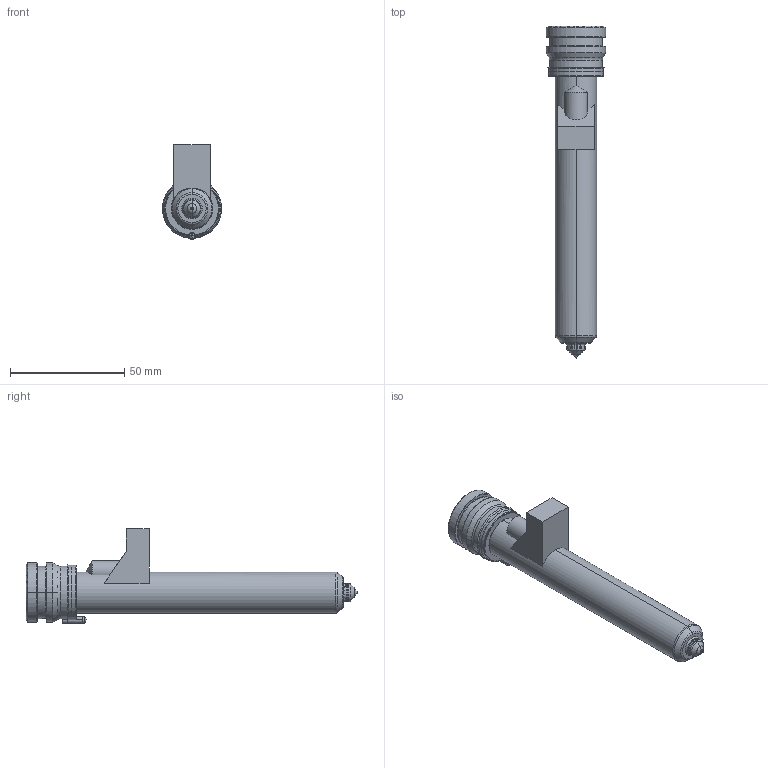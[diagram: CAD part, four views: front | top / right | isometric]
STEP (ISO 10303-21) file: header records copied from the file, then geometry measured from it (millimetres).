
FILE_DESCRIPTION((''),'2;1');
FILE_NAME('MPN-08-24-VX8-126-M','2026-02-05T13:31:19',('UPTIO'),('Thermoplay S.p.A.'),'CREO PARAMETRIC BY PTC INC, 2023494','CREO PARAMETRIC BY PTC INC, 2023494','');
FILE_SCHEMA(('CONFIG_CONTROL_DESIGN','SHAPE_APPEARANCE_LAYERS_GROUPS'));
Length unit declared in the file: millimetre
Products named in the file (1): MPN-08-24-VX8-126-M
Bounding box: 26 x 145.5 x 41.5 mm (x, y, z)
Volume: 27894.5 mm3; surface area: 36998.6 mm2
Topology: 2 solids, 3 shells, 529 faces, 1372 edges, 842 vertices
Faces by surface type: cylinder 174, plane 143, bspline 77, torus 60, cone 60, sphere 9, extrusion 6
Entity records: 27377 total; most frequent: CARTESIAN_POINT 11856, ORIENTED_EDGE 2726, DIRECTION 2495, EDGE_CURVE 1363, AXIS2_PLACEMENT_3D 975, VERTEX_POINT 842, EDGE_LOOP 559, VECTOR 545
